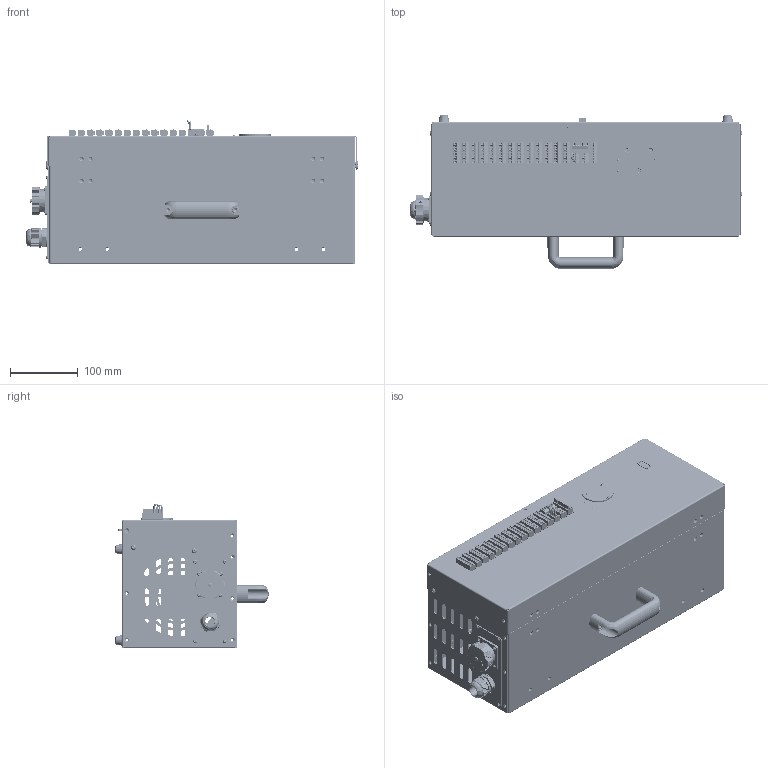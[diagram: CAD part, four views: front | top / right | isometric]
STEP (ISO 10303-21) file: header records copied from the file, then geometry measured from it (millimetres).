
FILE_DESCRIPTION (( 'STEP AP203' ), '1' );
FILE_NAME ('ERB1C4K0MNE.STEP', '2024-05-15T06:41:10', ( '' ), ( '' ), 'SwSTEP 2.0', 'SolidWorks 2017', '' );
FILE_SCHEMA (( 'CONFIG_CONTROL_DESIGN' ));
Length unit declared in the file: millimetre
Products named in the file (22): GBT70．1-2000内六角圆柱头螺钉M3×8; WY32-Z; 蝓蟈 A-120-6-03; XAG61-L100; OEM眊极-C; NHY11-16; 囀鞠褒す埴芛蹟隊 GB _T 70.2 - 2015   M4X8; OEM眊极-C-藷; 蝓蟈 A-120-6-02; 囀鞠褒す埴芛蹟隊 GB _T 70.2 - 2015   M3X8; 假蚾鍼踢裔啣; ERB1C4K0MNE连接器安装钣金_默认SM-FLAT-PATTERN; 蝓蟈 A-120-6-01; 儕馱悵玸佪; GB_T70.1-2008 M6x16; NB40200025 Safe Io-C20; 跡擘芛 KGB20-14-ST; 囀鞠褒麥芛蹟隊 GB-T70.3-2008 M3X6; 蝓蟈 A-120-6; PLP2-250; OEM眊极-C-眊极; ERB1C4K0MNE
Assembly tree (42 placements, depth 4):
  ERB1C4K0MNE
    OEM眊极-C
      OEM眊极-C-眊极
      OEM眊极-C-藷
      蝓蟈 A-120-6  x2
        蝓蟈 A-120-6-01
        蝓蟈 A-120-6-02
        蝓蟈 A-120-6-03
      XAG61-L100
      NHY11-16  x4
      GBT70．1-2000内六角圆柱头螺钉M3×8  x4
      GB_T70.1-2008 M6x16  x2
      囀鞠褒す埴芛蹟隊 GB _T 70.2 - 2015   M4X8  x4
    ERB1C4K0MNE连接器安装钣金_默认SM-FLAT-PATTERN
    NB40200025 Safe Io-C20
    假蚾鍼踢裔啣
    PLP2-250  x2
    儕馱悵玸佪
    WY32-Z
    跡擘芛 KGB20-14-ST
    囀鞠褒す埴芛蹟隊 GB _T 70.2 - 2015   M3X8  x8
    囀鞠褒麥芛蹟隊 GB-T70.3-2008 M3X6  x3
Bounding box: 491.38 x 226.94 x 213.6 mm (x, y, z)
Volume: 699272.1 mm3; surface area: 1098918.7 mm2
Topology: 46 solids, 180 shells, 30551 faces, 81670 edges, 52840 vertices
Faces by surface type: plane 19502, cylinder 8501, bspline 1320, cone 993, torus 143, sphere 92
Entity records: 974159 total; most frequent: CARTESIAN_POINT 235790, ORIENTED_EDGE 158506, DIRECTION 143512, EDGE_CURVE 79266, VECTOR 54336, LINE 54336, VERTEX_POINT 51665, AXIS2_PLACEMENT_3D 44588
